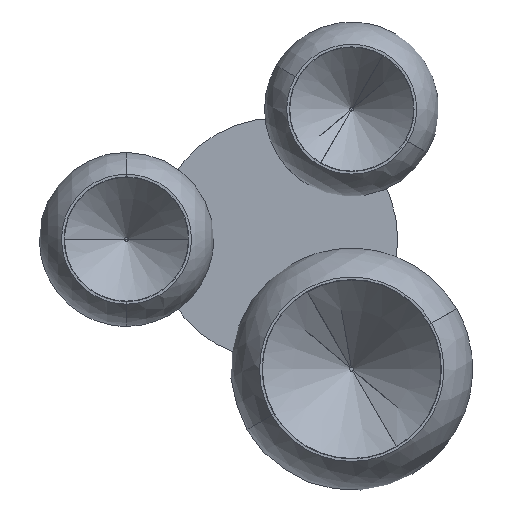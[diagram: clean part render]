
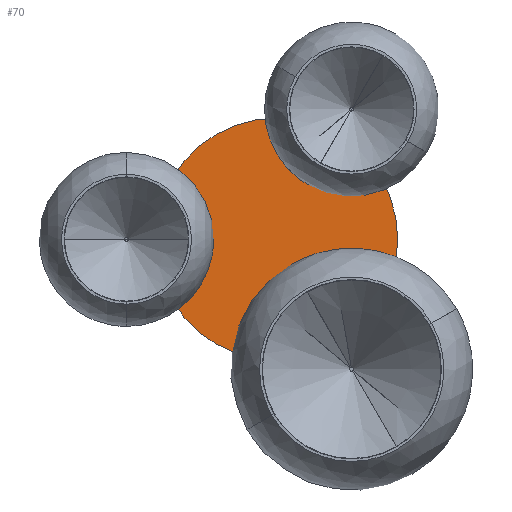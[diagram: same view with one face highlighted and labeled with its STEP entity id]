
A CAD part, front view. The second image highlights one B-rep face of the part: STEP entity #70.
In plain terms, the highlighted planar face has unit normal (0, -1, 0).
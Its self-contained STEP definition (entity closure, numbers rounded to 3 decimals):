
#70 = ADVANCED_FACE ( 'NONE', ( #1343 ), #1658, .F. ) ;
#94 = CARTESIAN_POINT ( 'NONE',  ( 0., 0., -125. ) ) ;
#396 = CARTESIAN_POINT ( 'NONE',  ( 0., 0., 125. ) ) ;
#499 = ORIENTED_EDGE ( 'NONE', *, *, #1468, .F. ) ;
#783 = VERTEX_POINT ( 'NONE', #396 ) ;
#787 = DIRECTION ( 'NONE',  ( 0., 0., 1. ) ) ;
#1118 = CARTESIAN_POINT ( 'NONE',  ( 0., 0., 0. ) ) ;
#1343 = FACE_OUTER_BOUND ( 'NONE', #3259, .T. ) ;
#1346 = DIRECTION ( 'NONE',  ( 0., 1., 0. ) ) ;
#1468 = EDGE_CURVE ( 'NONE', #2505, #783, #2728, .T. ) ;
#1658 = PLANE ( 'NONE',  #3815 ) ;
#1720 = AXIS2_PLACEMENT_3D ( 'NONE', #1118, #1346, #787 ) ;
#1931 = EDGE_CURVE ( 'NONE', #783, #2505, #2961, .T. ) ;
#2052 = DIRECTION ( 'NONE',  ( 0., 0., 1. ) ) ;
#2400 = CARTESIAN_POINT ( 'NONE',  ( 0., 0., 0. ) ) ;
#2505 = VERTEX_POINT ( 'NONE', #94 ) ;
#2662 = AXIS2_PLACEMENT_3D ( 'NONE', #2400, #3282, #2052 ) ;
#2728 = CIRCLE ( 'NONE', #2662, 125. ) ;
#2777 = ORIENTED_EDGE ( 'NONE', *, *, #1931, .F. ) ;
#2842 = DIRECTION ( 'NONE',  ( 0., 1., 0. ) ) ;
#2961 = CIRCLE ( 'NONE', #1720, 125. ) ;
#3166 = DIRECTION ( 'NONE',  ( 0., 0., 1. ) ) ;
#3259 = EDGE_LOOP ( 'NONE', ( #499, #2777 ) ) ;
#3282 = DIRECTION ( 'NONE',  ( 0., 1., 0. ) ) ;
#3416 = CARTESIAN_POINT ( 'NONE',  ( 0., 0., 0. ) ) ;
#3815 = AXIS2_PLACEMENT_3D ( 'NONE', #3416, #2842, #3166 ) ;
